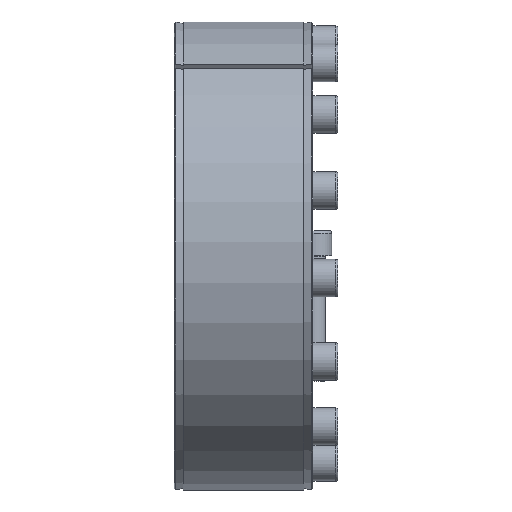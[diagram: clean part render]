
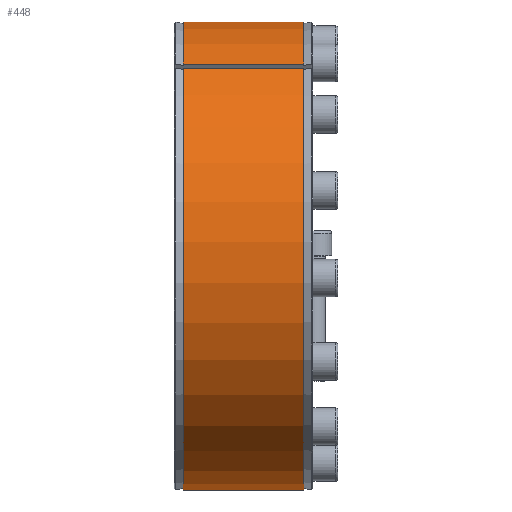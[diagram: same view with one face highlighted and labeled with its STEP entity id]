
A CAD part, left-side view. The second image highlights one B-rep face of the part: STEP entity #448.
In plain terms, the highlighted cylindrical face has radius 187.5 mm (diameter 375 mm), a partial arc.
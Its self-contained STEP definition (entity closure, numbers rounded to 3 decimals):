
#448 = ADVANCED_FACE( '', ( #787 ), #788, .T. );
#787 = FACE_OUTER_BOUND( '', #1124, .T. );
#788 = CYLINDRICAL_SURFACE( '', #1125, 187.5 );
#1124 = EDGE_LOOP( '', ( #1741, #1742, #1743, #1744 ) );
#1125 = AXIS2_PLACEMENT_3D( '', #1745, #1746, #1747 );
#1741 = ORIENTED_EDGE( '', *, *, #2321, .T. );
#1742 = ORIENTED_EDGE( '', *, *, #2285, .T. );
#1743 = ORIENTED_EDGE( '', *, *, #2344, .F. );
#1744 = ORIENTED_EDGE( '', *, *, #2428, .T. );
#1745 = CARTESIAN_POINT( '', ( 0., -60., 0. ) );
#1746 = DIRECTION( '', ( 0., 1., 0. ) );
#1747 = DIRECTION( '', ( 0., 0., -1. ) );
#2285 = EDGE_CURVE( '', #2605, #2603, #2606, .T. );
#2321 = EDGE_CURVE( '', #2671, #2605, #2672, .T. );
#2344 = EDGE_CURVE( '', #2713, #2603, #2714, .T. );
#2428 = EDGE_CURVE( '', #2713, #2671, #2856, .F. );
#2603 = VERTEX_POINT( '', #3045 );
#2605 = VERTEX_POINT( '', #3048 );
#2606 = LINE( '', #3049, #3050 );
#2671 = VERTEX_POINT( '', #3140 );
#2672 = CIRCLE( '', #3141, 187.5 );
#2713 = VERTEX_POINT( '', #3190 );
#2714 = CIRCLE( '', #3191, 187.5 );
#2856 = LINE( '', #3692, #3693 );
#3045 = CARTESIAN_POINT( '', ( -107.973, 7.5, 153.291 ) );
#3048 = CARTESIAN_POINT( '', ( -107.973, 103.5, 153.291 ) );
#3049 = CARTESIAN_POINT( '', ( -107.973, -60., 153.291 ) );
#3050 = VECTOR( '', #3830, 1000. );
#3140 = CARTESIAN_POINT( '', ( -112.423, 103.5, 150.058 ) );
#3141 = AXIS2_PLACEMENT_3D( '', #3907, #3908, #3909 );
#3190 = CARTESIAN_POINT( '', ( -112.423, 7.5, 150.058 ) );
#3191 = AXIS2_PLACEMENT_3D( '', #3966, #3967, #3968 );
#3692 = CARTESIAN_POINT( '', ( -112.423, -60., 150.058 ) );
#3693 = VECTOR( '', #4154, 1000. );
#3830 = DIRECTION( '', ( 0., -1., 0. ) );
#3907 = CARTESIAN_POINT( '', ( 0., 103.5, 0. ) );
#3908 = DIRECTION( '', ( 0., -1., 0. ) );
#3909 = DIRECTION( '', ( 0., 0., -1. ) );
#3966 = CARTESIAN_POINT( '', ( 0., 7.5, 0. ) );
#3967 = DIRECTION( '', ( 0., -1., 0. ) );
#3968 = DIRECTION( '', ( 0., 0., -1. ) );
#4154 = DIRECTION( '', ( 0., -1., 0. ) );
